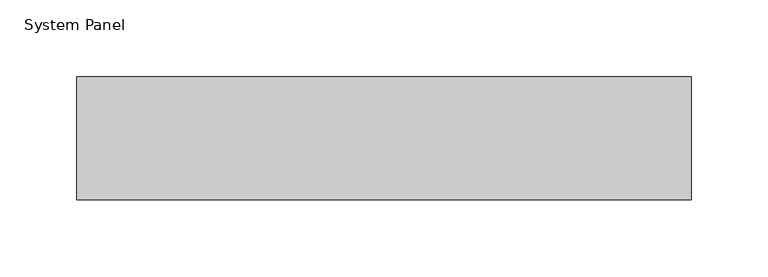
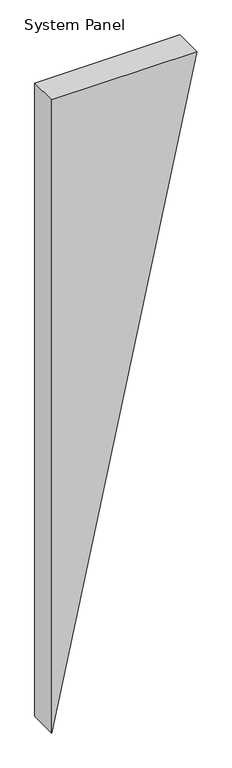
"""IFC4 building model written with IfcOpenShell, lengths in millimetres: plate geometry, System Panel : Inspire 80mm Vertical - Plain RHEA-PIR."""

from ifc_helpers import new_model, si_unit, frame, origin, place, context, project, spatial, polyline, outline, extrude, source, transform, mapped, element, save


def system_panel_f572c1b2(model_context):
    return source(origin(), model_context, "Body", "SweptSolid", [
        extrude(outline(polyline([(1839.9852118, -200.0), (0.0, -200.0), (1839.9852118, 200.0), (1839.9852118, -200.0)])), frame((0.0, -80.0, 0.0), z_axis=(0.0, 1.0, 0.0), x_axis=(0.0, 0.0, 1.0)), (0.0, 0.0, 1.0), 80.0),
    ])


if __name__ == "__main__":
    model = new_model("IFC4")
    model_context = context("Model", 3, world=origin())
    ifc_project = project(units=[si_unit("LENGTHUNIT", "METRE", prefix="MILLI")], contexts=[model_context])
    site = spatial("IfcSite", under=ifc_project)
    building = spatial("IfcBuilding", under=site)
    placement = place(None, origin())
    system_panel_shape = system_panel_f572c1b2(model_context)
    element("IfcPlate", 1, ObjectType="System Panel : Inspire 80mm Vertical - Plain RHEA-PIR", at=placement, inside=building, context=model_context, shape_type="MappedRepresentation", body=[
        mapped(system_panel_shape, transform((0.0, 0.0, 0.0), x_axis=(1.0, 0.0, 0.0), y_axis=(0.0, 1.0, 0.0), z_axis=(0.0, 0.0, 1.0))),
    ])
    save(model, "model.ifc")
